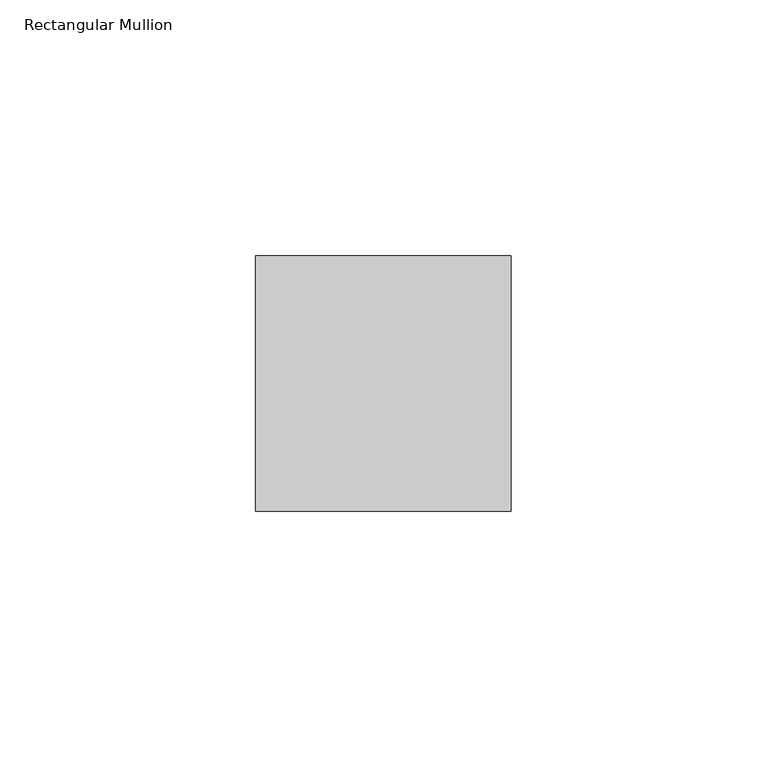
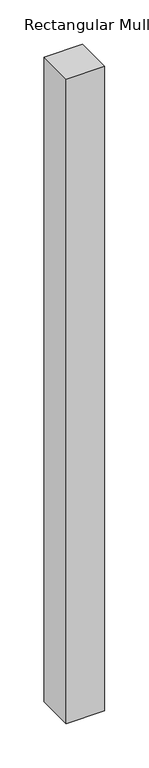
"""IFC4 building model written with IfcOpenShell, lengths in millimetres: member geometry, Rectangular Mullion : Mullion_Curtain Wall_Generic Showcase_50x50mm."""

from ifc_helpers import new_model, si_unit, frame, origin, place, context, project, spatial, polyline, outline, extrude, source, transform, mapped, element, save


def rectangular_mullion_8c2ecb36(model_context):
    return source(origin(), model_context, "Body", "SweptSolid", [
        extrude(outline(polyline([(0.0, 50.0), (0.0, 0.0), (-50.0, 0.0), (-50.0, 50.0), (0.0, 50.0)])), frame((0.0, 0.0, -887.5), z_axis=(0.0, 0.0, 1.0), x_axis=(1.0, 0.0, 0.0)), (0.0, 0.0, 1.0), 887.5),
    ])


if __name__ == "__main__":
    model = new_model("IFC4")
    model_context = context("Model", 3, world=origin())
    ifc_project = project(units=[si_unit("LENGTHUNIT", "METRE", prefix="MILLI")], contexts=[model_context])
    site = spatial("IfcSite", under=ifc_project)
    building = spatial("IfcBuilding", under=site)
    placement = place(None, origin())
    rectangular_mullion_shape = rectangular_mullion_8c2ecb36(model_context)
    element("IfcMember", 1, ObjectType="Rectangular Mullion : Mullion_Curtain Wall_Generic Showcase_50x50mm", at=placement, inside=building, context=model_context, shape_type="MappedRepresentation", body=[
        mapped(rectangular_mullion_shape, transform((0.0, 0.0, 0.0), x_axis=(1.0, 0.0, 0.0), y_axis=(0.0, 1.0, 0.0), z_axis=(0.0, 0.0, 1.0))),
    ])
    save(model, "model.ifc")
